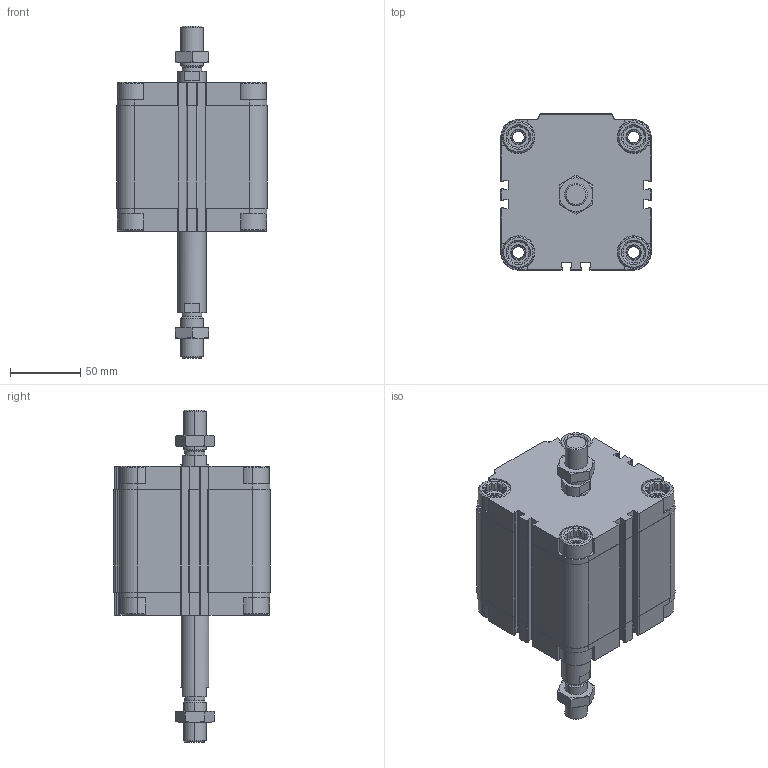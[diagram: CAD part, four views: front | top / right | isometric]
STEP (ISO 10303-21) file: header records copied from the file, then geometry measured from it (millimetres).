
FILE_DESCRIPTION (( 'STEP AP203' ), '1' );
FILE_NAME ('CDVU80-50M-P.STEP', '2020-07-21T15:25:24', ( '' ), ( '' ), 'SwSTEP 2.0', 'SolidWorks 2019', '' );
FILE_SCHEMA (( 'CONFIG_CONTROL_DESIGN' ));
Length unit declared in the file: millimetre
Products named in the file (1): CDVU80-50M-P
Bounding box: 107 x 111 x 236 mm (x, y, z)
Volume: 933596.4 mm3; surface area: 155779.3 mm2
Topology: 4 solids, 4 shells, 706 faces, 1888 edges, 1234 vertices
Faces by surface type: plane 410, cylinder 216, cone 80
Entity records: 22967 total; most frequent: CARTESIAN_POINT 5177, ORIENTED_EDGE 3768, DIRECTION 3610, EDGE_CURVE 1884, AXIS2_PLACEMENT_3D 1235, VERTEX_POINT 1234, VECTOR 1140, LINE 1140
